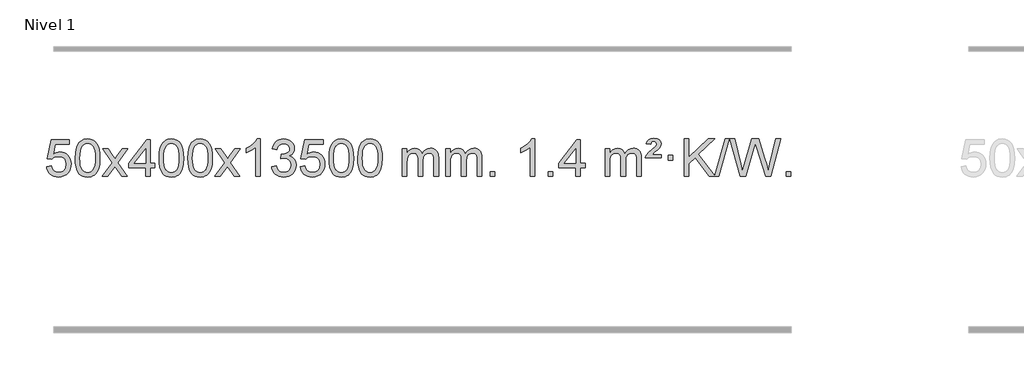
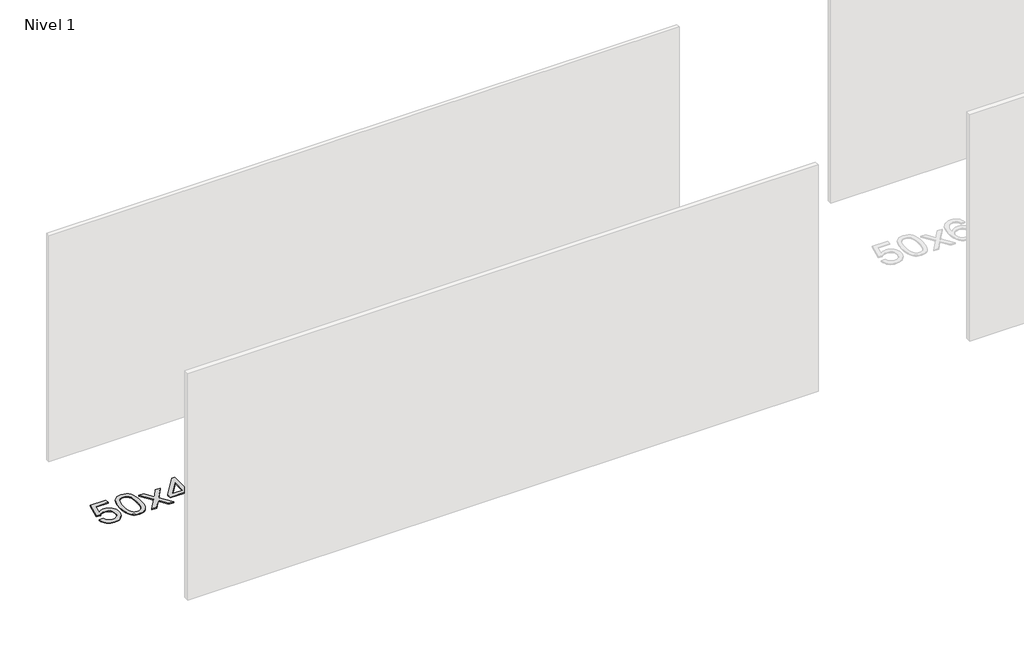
# One storey, part 5 of 12: 1 proxy.
"""IFC4 building model written with IfcOpenShell, lengths in millimetres."""

from ifc_helpers import new_model, si_unit, origin, origin_with_axes, place, context, project, spatial, polyline, outline, extrude, element, save

model = new_model("IFC4")

# Units and contexts
model_context = context("Model", 3, world=origin())
ifc_project = project(units=[si_unit("LENGTHUNIT", "METRE", prefix="MILLI")], contexts=[model_context])

# Site, building, storey
site = spatial("IfcSite", under=ifc_project)
building = spatial("IfcBuilding", under=site)
storey = spatial("IfcBuildingStorey", under=building, Name="Nivel 1", Elevation=0.0)

# Proxy
placement = place(None, origin())
element("IfcBuildingElementProxy", 1, Name="Texto de modelo 1", ObjectType="Texto de modelo 1", at=placement, inside=storey, context=model_context, shape_type="SweptSolid", body=[
    extrude(outline(polyline([(-11709.9934354, -284.8446235), (-11659.7652803, -278.5661041), (-11650.543705, -308.7201649), (-11634.454999, -330.3148381), (-11611.5727389, -343.3010725), (-11581.9705011, -347.6298173), (-11562.8406373, -346.1245668), (-11545.9671165, -341.6088153), (-11531.3499385, -334.0825628), (-11518.9891035, -323.5458094), (-11509.1605228, -310.519721), (-11502.1401081, -295.5254641), (-11496.5237763, -259.6324441), (-11501.7844888, -225.8363514), (-11508.3603795, -211.9181493), (-11517.5666264, -199.9865099), (-11529.4338865, -190.4154467), (-11543.9928164, -183.5789729), (-11581.1856861, -178.1097939), (-11605.5517369, -180.2925604), (-11625.2824746, -186.8408599), (-11641.0400868, -196.8717757), (-11653.4867609, -209.5023908), (-11703.714916, -203.2238715), (-11659.7652803, 3.9672682), (-11465.1311794, 3.9672682), (-11465.1311794, -46.2608869), (-11619.151108, -46.2608869), (-11640.6354166, -156.919791), (-11622.9096358, -144.2155994), (-11604.7546593, -135.1411769), (-11586.1704872, -129.6965234), (-11567.1571194, -127.8816388), (-11542.6960324, -130.1318504), (-11520.2276395, -136.882485), (-11499.7519408, -148.1335427), (-11481.2689362, -163.8850234), (-11465.9681109, -183.1743027), (-11455.03895, -205.038756), (-11448.4814534, -229.4783832), (-11446.2956212, -256.4931844), (-11448.2637899, -282.5147042), (-11454.1682959, -306.7213394), (-11464.0091393, -329.1130902), (-11477.78632, -349.6899565), (-11498.6574919, -370.7634634), (-11523.01128, -385.8159684), (-11550.8476843, -394.8474714), (-11582.1667048, -397.8579724), (-11608.087057, -395.9235262), (-11631.4996803, -390.1201877), (-11652.4045747, -380.447957), (-11670.8017402, -366.9068338), (-11686.1086968, -350.1712688), (-11697.7429649, -330.915712), (-11705.7045445, -309.1401636), (-11709.9934354, -284.8446235)])), origin_with_axes(), (0.0, 0.0, 1.0), 10.0),
    extrude(outline(polyline([(-11402.3459855, -193.9041943), (-11398.6549029, -129.5861588), (-11387.5816548, -78.2911459), (-11369.236606, -39.2343407), (-11357.378543, -24.0009605), (-11343.730121, -11.6309284), (-11328.2453547, -2.0598651), (-11310.8782588, 4.7766086), (-11270.4970785, 10.2457876), (-11239.5459399, 7.008426), (-11211.832163, -2.7036586), (-11188.6555973, -18.5103217), (-11171.3160926, -40.0314184), (-11158.2194935, -67.0830078), (-11147.7716449, -99.4811488), (-11140.9290398, -140.6226186), (-11138.6481714, -193.9041943), (-11142.3024659, -257.8543477), (-11153.2653493, -309.0267333), (-11171.5000336, -348.1203266), (-11183.3305054, -363.3996922), (-11196.9697304, -375.8341036), (-11212.4728908, -385.4695462), (-11229.8951689, -392.3520052), (-11270.4970785, -397.8579724), (-11298.1618045, -395.4667394), (-11322.6872709, -388.2930405), (-11344.0734775, -376.3368757), (-11362.3204245, -359.5982449), (-11379.8316074, -329.3399508), (-11392.3395953, -291.6381776), (-11399.844388, -246.4929255), (-11402.3459855, -193.9041943)]), holes=[polyline([(-11352.1178305, -193.8060924), (-11350.6463025, -237.4706195), (-11346.2317185, -272.8148822), (-11338.8740786, -299.8388804), (-11328.5733828, -318.5426142), (-11316.1144459, -331.2682656), (-11302.2820829, -340.3580165), (-11287.0762937, -345.8118671), (-11270.4970785, -347.6298173), (-11253.9178632, -345.8057357), (-11238.7120741, -340.3334911), (-11224.8797111, -331.2130833), (-11212.4207742, -318.4445124), (-11202.1200783, -299.7101217), (-11194.7624384, -272.6922549), (-11190.3478545, -237.3909118), (-11188.8763265, -193.8060924), (-11190.2988035, -151.2973278), (-11194.5662347, -116.5753989), (-11201.6786199, -89.6403055), (-11211.6359592, -70.4920476), (-11223.8864297, -57.1440625), (-11237.8782082, -47.6097875), (-11253.6112949, -41.8892225), (-11271.0856897, -39.9823675), (-11287.5790658, -41.6623619), (-11302.5273375, -46.7023452), (-11315.9305049, -55.1023175), (-11327.7885679, -66.8622786), (-11338.4326203, -87.708925), (-11346.0355148, -115.8151094), (-11350.5972516, -151.1808319), (-11352.1178305, -193.8060924)])]), origin_with_axes(), (0.0, 0.0, 1.0), 10.0),
    extrude(outline(polyline([(-11113.5340939, -391.579453), (-11006.2106531, -243.2494325), (-11107.2555745, -96.4890419), (-11046.8248254, -96.4890419), (-10998.0681983, -167.122385), (-10975.3085655, -200.4770192), (-10955.5900906, -173.2047007), (-10900.0644348, -96.4890419), (-10839.6336857, -96.4890419), (-10945.7799041, -243.2494325), (-10843.5577603, -391.579453), (-10903.9885094, -391.579453), (-10965.498379, -302.4048574), (-10976.7800935, -286.1199477), (-11053.1033448, -391.579453), (-11113.5340939, -391.579453)])), origin_with_axes(), (0.0, 0.0, 1.0), 10.0),
    extrude(outline(polyline([(-10648.9236594, -391.579453), (-10648.9236594, -297.4016622), (-10831.0007216, -297.4016622), (-10831.0007216, -247.1735072), (-10636.3666207, 3.9672682), (-10598.6955043, 3.9672682), (-10598.6955043, -247.1735072), (-10548.4673493, -247.1735072), (-10548.4673493, -297.4016622), (-10598.6955043, -297.4016622), (-10598.6955043, -391.579453), (-10648.9236594, -391.579453)]), holes=[polyline([(-10648.9236594, -247.1735072), (-10648.9236594, -91.9763561), (-10769.1965464, -247.1735072), (-10648.9236594, -247.1735072)])]), origin_with_axes(), (0.0, 0.0, 1.0), 10.0),
    extrude(outline(polyline([(-10504.5177136, -193.9041943), (-10500.8266309, -129.5861588), (-10489.7533828, -78.2911459), (-10471.408334, -39.2343407), (-10459.550271, -24.0009605), (-10445.901849, -11.6309284), (-10430.4170827, -2.0598651), (-10413.0499869, 4.7766086), (-10372.6688065, 10.2457876), (-10341.717668, 7.008426), (-10314.003891, -2.7036586), (-10290.8273253, -18.5103217), (-10273.4878206, -40.0314184), (-10260.3912216, -67.0830078), (-10249.9433729, -99.4811488), (-10243.1007678, -140.6226186), (-10240.8198994, -193.9041943), (-10244.4741939, -257.8543477), (-10255.4370774, -309.0267333), (-10273.6717616, -348.1203266), (-10285.5022334, -363.3996922), (-10299.1414584, -375.8341036), (-10314.6446188, -385.4695462), (-10332.066897, -392.3520052), (-10372.6688065, -397.8579724), (-10400.3335326, -395.4667394), (-10424.8589989, -388.2930405), (-10446.2452055, -376.3368757), (-10464.4921525, -359.5982449), (-10482.0033355, -329.3399508), (-10494.5113233, -291.6381776), (-10502.016116, -246.4929255), (-10504.5177136, -193.9041943)]), holes=[polyline([(-10454.2895585, -193.8060924), (-10452.8180305, -237.4706195), (-10448.4034466, -272.8148822), (-10441.0458067, -299.8388804), (-10430.7451108, -318.5426142), (-10418.2861739, -331.2682656), (-10404.4538109, -340.3580165), (-10389.2480218, -345.8118671), (-10372.6688065, -347.6298173), (-10356.0895913, -345.8057357), (-10340.8838021, -340.3334911), (-10327.0514391, -331.2130833), (-10314.5925022, -318.4445124), (-10304.2918063, -299.7101217), (-10296.9341664, -272.6922549), (-10292.5195825, -237.3909118), (-10291.0480545, -193.8060924), (-10292.4705316, -151.2973278), (-10296.7379627, -116.5753989), (-10303.8503479, -89.6403055), (-10313.8076873, -70.4920476), (-10326.0581577, -57.1440625), (-10340.0499363, -47.6097875), (-10355.7830229, -41.8892225), (-10373.2574177, -39.9823675), (-10389.7507938, -41.6623619), (-10404.6990656, -46.7023452), (-10418.1022329, -55.1023175), (-10429.9602959, -66.8622786), (-10440.6043483, -87.708925), (-10448.2072429, -115.8151094), (-10452.7689796, -151.1808319), (-10454.2895585, -193.8060924)])]), origin_with_axes(), (0.0, 0.0, 1.0), 10.0),
    extrude(outline(polyline([(-10196.8702638, -193.9041943), (-10193.1791811, -129.5861588), (-10182.105933, -78.2911459), (-10163.7608842, -39.2343407), (-10151.9028212, -24.0009605), (-10138.2543992, -11.6309284), (-10122.7696329, -2.0598651), (-10105.402537, 4.7766086), (-10065.0213567, 10.2457876), (-10034.0702182, 7.008426), (-10006.3564412, -2.7036586), (-9983.1798755, -18.5103217), (-9965.8403708, -40.0314184), (-9952.7437718, -67.0830078), (-9942.2959231, -99.4811488), (-9935.453318, -140.6226186), (-9933.1724496, -193.9041943), (-9936.8267441, -257.8543477), (-9947.7896275, -309.0267333), (-9966.0243118, -348.1203266), (-9977.8547836, -363.3996922), (-9991.4940086, -375.8341036), (-10006.997169, -385.4695462), (-10024.4194471, -392.3520052), (-10065.0213567, -397.8579724), (-10092.6860827, -395.4667394), (-10117.2115491, -388.2930405), (-10138.5977557, -376.3368757), (-10156.8447027, -359.5982449), (-10174.3558856, -329.3399508), (-10186.8638735, -291.6381776), (-10194.3686662, -246.4929255), (-10196.8702638, -193.9041943)]), holes=[polyline([(-10146.6421087, -193.8060924), (-10145.1705807, -237.4706195), (-10140.7559968, -272.8148822), (-10133.3983568, -299.8388804), (-10123.097661, -318.5426142), (-10110.6387241, -331.2682656), (-10096.8063611, -340.3580165), (-10081.6005719, -345.8118671), (-10065.0213567, -347.6298173), (-10048.4421414, -345.8057357), (-10033.2363523, -340.3334911), (-10019.4039893, -331.2130833), (-10006.9450524, -318.4445124), (-9996.6443565, -299.7101217), (-9989.2867166, -272.6922549), (-9984.8721327, -237.3909118), (-9983.4006047, -193.8060924), (-9984.8230817, -151.2973278), (-9989.0905129, -116.5753989), (-9996.2028981, -89.6403055), (-10006.1602375, -70.4920476), (-10018.4107079, -57.1440625), (-10032.4024864, -47.6097875), (-10048.1355731, -41.8892225), (-10065.6099679, -39.9823675), (-10082.103344, -41.6623619), (-10097.0516157, -46.7023452), (-10110.4547831, -55.1023175), (-10122.3128461, -66.8622786), (-10132.9568985, -87.708925), (-10140.559793, -115.8151094), (-10145.1215298, -151.1808319), (-10146.6421087, -193.8060924)])]), origin_with_axes(), (0.0, 0.0, 1.0), 10.0),
    extrude(outline(polyline([(-9908.0583721, -391.579453), (-9800.7349313, -243.2494325), (-9901.7798527, -96.4890419), (-9841.3491036, -96.4890419), (-9792.5924765, -167.122385), (-9769.8328437, -200.4770192), (-9750.1143688, -173.2047007), (-9694.588713, -96.4890419), (-9634.1579639, -96.4890419), (-9740.3041823, -243.2494325), (-9638.0820385, -391.579453), (-9698.5127876, -391.579453), (-9760.0226572, -302.4048574), (-9771.3043717, -286.1199477), (-9847.627623, -391.579453), (-9908.0583721, -391.579453)])), origin_with_axes(), (0.0, 0.0, 1.0), 10.0),
    extrude(outline(polyline([(-9418.3338601, -391.579453), (-9468.5620152, -391.579453), (-9468.5620152, -78.4382987), (-9489.5312889, -95.3976587), (-9516.1414199, -112.3324932), (-9569.0183253, -137.6918254), (-9569.0183253, -90.2105225), (-9529.5691127, -68.7507395), (-9495.3928753, -43.219729), (-9468.4516506, -16.0700378), (-9450.7074757, 10.2457876), (-9418.3338601, 10.2457876), (-9418.3338601, -391.579453)])), origin_with_axes(), (0.0, 0.0, 1.0), 10.0),
    extrude(outline(polyline([(-9299.0419918, -284.8446235), (-9248.8138367, -278.5661041), (-9237.5689104, -310.1303793), (-9221.1000597, -331.4430095), (-9198.5979444, -343.5831154), (-9169.2532239, -347.6298173), (-9134.8194691, -342.0625364), (-9120.5456477, -335.1034354), (-9108.2338636, -325.3606939), (-9091.2377154, -300.4428201), (-9085.5723327, -270.2274455), (-9091.1886645, -241.5449126), (-9108.0376599, -218.2825078), (-9133.5441449, -202.8682522), (-9165.1329455, -197.730167), (-9200.3515152, -203.2238715), (-9194.7597089, -152.9957164), (-9186.7153559, -153.5843276), (-9156.6226087, -149.979084), (-9129.7181721, -139.1633534), (-9118.6449241, -130.9841103), (-9110.7354612, -120.8673555), (-9105.9897835, -108.8130888), (-9104.4078909, -94.8213102), (-9108.9941531, -73.1285352), (-9122.7529397, -55.5315131), (-9143.7467389, -43.8696539), (-9170.0380388, -39.9823675), (-9196.3783897, -43.9064421), (-9217.9117491, -55.6786659), (-9233.632573, -75.299039), (-9242.5353173, -102.7675613), (-9292.7634724, -96.4890419), (-9286.8099154, -72.5092672), (-9277.9746162, -51.3867093), (-9266.2575747, -33.1213683), (-9251.6587908, -17.713244), (-9234.6381172, -5.4811677), (-9215.6554062, 3.2560297), (-9194.710658, 8.4983481), (-9171.8038724, 10.2457876), (-9140.2273345, 6.7999596), (-9111.2259705, -3.5375245), (-9086.7740806, -19.8469596), (-9068.8459647, -41.2086408), (-9057.846293, -65.8199463), (-9054.1797358, -91.8782543), (-9057.662352, -116.1584659), (-9068.1102007, -138.1823347), (-9085.376129, -156.9443165), (-9109.3129841, -171.4388671), (-9077.8713363, -184.1430586), (-9054.5721433, -205.77452), (-9040.151169, -235.1560286), (-9035.3441776, -271.1103623), (-9037.7476733, -296.5923218), (-9044.9581605, -320.0631931), (-9056.975639, -341.5229762), (-9073.8001089, -360.971671), (-9094.2972674, -377.1094278), (-9117.3328116, -388.636397), (-9142.9067417, -395.5525785), (-9171.0190575, -397.8579724), (-9196.4274406, -395.8898037), (-9219.5794808, -389.9852977), (-9240.4751782, -380.1444543), (-9259.1145326, -366.3672736), (-9274.743386, -349.4630959), (-9286.6075804, -330.2412617), (-9294.7071156, -308.7017708), (-9299.0419918, -284.8446235)])), origin_with_axes(), (0.0, 0.0, 1.0), 10.0),
    extrude(outline(polyline([(-8991.394542, -284.8446235), (-8941.1663869, -278.5661041), (-8931.9448115, -308.7201649), (-8915.8561056, -330.3148381), (-8892.9738455, -343.3010725), (-8863.3716076, -347.6298173), (-8844.2417439, -346.1245668), (-8827.368223, -341.6088153), (-8812.7510451, -334.0825628), (-8800.3902101, -323.5458094), (-8790.5616294, -310.519721), (-8783.5412147, -295.5254641), (-8777.9248829, -259.6324441), (-8783.1855954, -225.8363514), (-8789.7614861, -211.9181493), (-8798.967733, -199.9865099), (-8810.834993, -190.4154467), (-8825.393923, -183.5789729), (-8862.5867927, -178.1097939), (-8886.9528435, -180.2925604), (-8906.6835812, -186.8408599), (-8922.4411933, -196.8717757), (-8934.8878675, -209.5023908), (-8985.1160226, -203.2238715), (-8941.1663869, 3.9672682), (-8746.532286, 3.9672682), (-8746.532286, -46.2608869), (-8900.5522146, -46.2608869), (-8922.0365231, -156.919791), (-8904.3107423, -144.2155994), (-8886.1557659, -135.1411769), (-8867.5715937, -129.6965234), (-8848.558226, -127.8816388), (-8824.097139, -130.1318504), (-8801.6287461, -136.882485), (-8781.1530474, -148.1335427), (-8762.6700428, -163.8850234), (-8747.3692175, -183.1743027), (-8736.4400566, -205.038756), (-8729.88256, -229.4783832), (-8727.6967278, -256.4931844), (-8729.6648965, -282.5147042), (-8735.5694025, -306.7213394), (-8745.4102459, -329.1130902), (-8759.1874266, -349.6899565), (-8780.0585985, -370.7634634), (-8804.4123865, -385.8159684), (-8832.2487908, -394.8474714), (-8863.5678114, -397.8579724), (-8889.4881636, -395.9235262), (-8912.9007869, -390.1201877), (-8933.8056813, -380.447957), (-8952.2028467, -366.9068338), (-8967.5098034, -350.1712688), (-8979.1440715, -330.915712), (-8987.105651, -309.1401636), (-8991.394542, -284.8446235)])), origin_with_axes(), (0.0, 0.0, 1.0), 10.0),
    extrude(outline(polyline([(-8683.7470921, -193.9041943), (-8680.0560094, -129.5861588), (-8668.9827614, -78.2911459), (-8650.6377126, -39.2343407), (-8638.7796496, -24.0009605), (-8625.1312276, -11.6309284), (-8609.6464612, -2.0598651), (-8592.2793654, 4.7766086), (-8551.8981851, 10.2457876), (-8520.9470465, 7.008426), (-8493.2332696, -2.7036586), (-8470.0567039, -18.5103217), (-8452.7171992, -40.0314184), (-8439.6206001, -67.0830078), (-8429.1727515, -99.4811488), (-8422.3301463, -140.6226186), (-8420.049278, -193.9041943), (-8423.7035725, -257.8543477), (-8434.6664559, -309.0267333), (-8452.9011401, -348.1203266), (-8464.731612, -363.3996922), (-8478.3708369, -375.8341036), (-8493.8739974, -385.4695462), (-8511.2962755, -392.3520052), (-8551.8981851, -397.8579724), (-8579.5629111, -395.4667394), (-8604.0883774, -388.2930405), (-8625.4745841, -376.3368757), (-8643.721531, -359.5982449), (-8661.232714, -329.3399508), (-8673.7407019, -291.6381776), (-8681.2454946, -246.4929255), (-8683.7470921, -193.9041943)]), holes=[polyline([(-8633.518937, -193.8060924), (-8632.0474091, -237.4706195), (-8627.6328251, -272.8148822), (-8620.2751852, -299.8388804), (-8609.9744894, -318.5426142), (-8597.5155525, -331.2682656), (-8583.6831894, -340.3580165), (-8568.4774003, -345.8118671), (-8551.8981851, -347.6298173), (-8535.3189698, -345.8057357), (-8520.1131807, -340.3334911), (-8506.2808176, -331.2130833), (-8493.8218807, -318.4445124), (-8483.5211849, -299.7101217), (-8476.163545, -272.6922549), (-8471.748961, -237.3909118), (-8470.2774331, -193.8060924), (-8471.6999101, -151.2973278), (-8475.9673412, -116.5753989), (-8483.0797265, -89.6403055), (-8493.0370658, -70.4920476), (-8505.2875363, -57.1440625), (-8519.2793148, -47.6097875), (-8535.0124015, -41.8892225), (-8552.4867962, -39.9823675), (-8568.9801724, -41.6623619), (-8583.9284441, -46.7023452), (-8597.3316115, -55.1023175), (-8609.1896744, -66.8622786), (-8619.8337268, -87.708925), (-8627.4366214, -115.8151094), (-8631.9983581, -151.1808319), (-8633.518937, -193.8060924)])]), origin_with_axes(), (0.0, 0.0, 1.0), 10.0),
    extrude(outline(polyline([(-8376.0996423, -193.9041943), (-8372.4085596, -129.5861588), (-8361.3353115, -78.2911459), (-8342.9902627, -39.2343407), (-8331.1321997, -24.0009605), (-8317.4837777, -11.6309284), (-8301.9990114, -2.0598651), (-8284.6319156, 4.7766086), (-8244.2507352, 10.2457876), (-8213.2995967, 7.008426), (-8185.5858197, -2.7036586), (-8162.409254, -18.5103217), (-8145.0697493, -40.0314184), (-8131.9731503, -67.0830078), (-8121.5253016, -99.4811488), (-8114.6826965, -140.6226186), (-8112.4018281, -193.9041943), (-8116.0561226, -257.8543477), (-8127.0190061, -309.0267333), (-8145.2536903, -348.1203266), (-8157.0841621, -363.3996922), (-8170.7233871, -375.8341036), (-8186.2265475, -385.4695462), (-8203.6488257, -392.3520052), (-8244.2507352, -397.8579724), (-8271.9154613, -395.4667394), (-8296.4409276, -388.2930405), (-8317.8271343, -376.3368757), (-8336.0740812, -359.5982449), (-8353.5852642, -329.3399508), (-8366.093252, -291.6381776), (-8373.5980447, -246.4929255), (-8376.0996423, -193.9041943)]), holes=[polyline([(-8325.8714872, -193.8060924), (-8324.3999592, -237.4706195), (-8319.9853753, -272.8148822), (-8312.6277354, -299.8388804), (-8302.3270395, -318.5426142), (-8289.8681026, -331.2682656), (-8276.0357396, -340.3580165), (-8260.8299505, -345.8118671), (-8244.2507352, -347.6298173), (-8227.67152, -345.8057357), (-8212.4657308, -340.3334911), (-8198.6333678, -331.2130833), (-8186.1744309, -318.4445124), (-8175.873735, -299.7101217), (-8168.5160951, -272.6922549), (-8164.1015112, -237.3909118), (-8162.6299832, -193.8060924), (-8164.0524603, -151.2973278), (-8168.3198914, -116.5753989), (-8175.4322767, -89.6403055), (-8185.389616, -70.4920476), (-8197.6400864, -57.1440625), (-8211.631865, -47.6097875), (-8227.3649516, -41.8892225), (-8244.8393464, -39.9823675), (-8261.3327225, -41.6623619), (-8276.2809943, -46.7023452), (-8289.6841616, -55.1023175), (-8301.5422246, -66.8622786), (-8312.186277, -87.708925), (-8319.7891716, -115.8151094), (-8324.3509083, -151.1808319), (-8325.8714872, -193.8060924)])]), origin_with_axes(), (0.0, 0.0, 1.0), 10.0),
    extrude(outline(polyline([(-7898.9321691, -391.579453), (-7898.9321691, -96.4890419), (-7848.704014, -96.4890419), (-7848.704014, -145.0494653), (-7833.5963267, -122.7435537), (-7814.1721574, -105.2691589), (-7791.0936936, -93.9751816), (-7765.0231228, -90.2105225), (-7737.0886167, -94.048758), (-7714.6968659, -105.5634645), (-7697.9704978, -123.9943524), (-7687.0321399, -148.5811324), (-7668.7238792, -123.0439906), (-7647.8404446, -104.803175), (-7624.3818361, -93.8586857), (-7598.3480536, -90.2105225), (-7578.2402368, -91.7280358), (-7560.5910981, -96.2805755), (-7545.4006374, -103.8681416), (-7532.6688547, -114.4907342), (-7522.6042164, -128.2709806), (-7515.4151891, -145.3315082), (-7511.1017727, -165.6723168), (-7509.6639672, -189.2934066), (-7509.6639672, -391.579453), (-7559.8921223, -391.579453), (-7559.8921223, -210.875817), (-7561.057082, -185.8230531), (-7564.5519609, -168.9372695), (-7571.1002604, -157.3735121), (-7581.4254818, -148.2868268), (-7594.7060218, -142.4007149), (-7610.1202774, -140.4386776), (-7637.3312823, -145.4663982), (-7659.5145666, -160.54956), (-7668.1199396, -172.1194488), (-7674.2666346, -186.7182326), (-7679.1839906, -225.0024856), (-7679.1839906, -391.579453), (-7729.4121457, -391.579453), (-7729.4121457, -205.2840106), (-7732.3184135, -176.8835206), (-7741.0372167, -156.6254854), (-7756.3778959, -144.4853796), (-7779.1497914, -140.4386776), (-7798.5003844, -143.1364789), (-7816.3303984, -151.2298828), (-7831.0456782, -164.5226856), (-7841.0520685, -182.8186835), (-7846.7910276, -208.2025411), (-7848.704014, -242.7589232), (-7848.704014, -391.579453), (-7898.9321691, -391.579453)])), origin_with_axes(), (0.0, 0.0, 1.0), 10.0),
    extrude(outline(polyline([(-7434.3217346, -391.579453), (-7434.3217346, -96.4890419), (-7384.0935796, -96.4890419), (-7384.0935796, -145.0494653), (-7368.9858923, -122.7435537), (-7349.5617229, -105.2691589), (-7326.4832591, -93.9751816), (-7300.4126884, -90.2105225), (-7272.4781822, -94.048758), (-7250.0864315, -105.5634645), (-7233.3600634, -123.9943524), (-7222.4217054, -148.5811324), (-7204.1134448, -123.0439906), (-7183.2300102, -104.803175), (-7159.7714016, -93.8586857), (-7133.7376191, -90.2105225), (-7113.6298024, -91.7280358), (-7095.9806637, -96.2805755), (-7080.790203, -103.8681416), (-7068.0584202, -114.4907342), (-7057.993782, -128.2709806), (-7050.8047547, -145.3315082), (-7046.4913383, -165.6723168), (-7045.0535328, -189.2934066), (-7045.0535328, -391.579453), (-7095.2816879, -391.579453), (-7095.2816879, -210.875817), (-7096.4466475, -185.8230531), (-7099.9415265, -168.9372695), (-7106.489826, -157.3735121), (-7116.8150473, -148.2868268), (-7130.0955874, -142.4007149), (-7145.509843, -140.4386776), (-7172.7208479, -145.4663982), (-7194.9041322, -160.54956), (-7203.5095052, -172.1194488), (-7209.6562002, -186.7182326), (-7214.5735562, -225.0024856), (-7214.5735562, -391.579453), (-7264.8017113, -391.579453), (-7264.8017113, -205.2840106), (-7267.707979, -176.8835206), (-7276.4267823, -156.6254854), (-7291.7674615, -144.4853796), (-7314.539357, -140.4386776), (-7333.88995, -143.1364789), (-7351.719964, -151.2298828), (-7366.4352438, -164.5226856), (-7376.4416341, -182.8186835), (-7382.1805932, -208.2025411), (-7384.0935796, -242.7589232), (-7384.0935796, -391.579453), (-7434.3217346, -391.579453)])), origin_with_axes(), (0.0, 0.0, 1.0), 10.0),
    extrude(outline(polyline([(-6957.1542614, -391.579453), (-6957.1542614, -341.3512979), (-6906.9261064, -341.3512979), (-6906.9261064, -391.579453), (-6957.1542614, -391.579453)])), origin_with_axes(), (0.0, 0.0, 1.0), 10.0),
    extrude(outline(polyline([(-6479.9867882, -391.579453), (-6530.2149433, -391.579453), (-6530.2149433, -78.4382987), (-6551.184217, -95.3976587), (-6577.794348, -112.3324932), (-6630.6712534, -137.6918254), (-6630.6712534, -90.2105225), (-6591.2220408, -68.7507395), (-6557.0458035, -43.219729), (-6530.1045787, -16.0700378), (-6512.3604038, 10.2457876), (-6479.9867882, 10.2457876), (-6479.9867882, -391.579453)])), origin_with_axes(), (0.0, 0.0, 1.0), 10.0),
    extrude(outline(polyline([(-6335.5808424, -391.579453), (-6335.5808424, -341.3512979), (-6285.3526873, -341.3512979), (-6285.3526873, -391.579453), (-6335.5808424, -391.579453)])), origin_with_axes(), (0.0, 0.0, 1.0), 10.0),
    extrude(outline(polyline([(-6040.4904313, -391.579453), (-6040.4904313, -297.4016622), (-6222.5674935, -297.4016622), (-6222.5674935, -247.1735072), (-6027.9333925, 3.9672682), (-5990.2622762, 3.9672682), (-5990.2622762, -247.1735072), (-5940.0341212, -247.1735072), (-5940.0341212, -297.4016622), (-5990.2622762, -297.4016622), (-5990.2622762, -391.579453), (-6040.4904313, -391.579453)]), holes=[polyline([(-6040.4904313, -247.1735072), (-6040.4904313, -91.9763561), (-6160.7633183, -247.1735072), (-6040.4904313, -247.1735072)])]), origin_with_axes(), (0.0, 0.0, 1.0), 10.0),
    extrude(outline(polyline([(-5726.5644621, -391.579453), (-5726.5644621, -96.4890419), (-5676.336307, -96.4890419), (-5676.336307, -145.0494653), (-5661.2286197, -122.7435537), (-5641.8044504, -105.2691589), (-5618.7259866, -93.9751816), (-5592.6554158, -90.2105225), (-5564.7209097, -94.048758), (-5542.3291589, -105.5634645), (-5525.6027909, -123.9943524), (-5514.6644329, -148.5811324), (-5496.3561722, -123.0439906), (-5475.4727377, -104.803175), (-5452.0141291, -93.8586857), (-5425.9803466, -90.2105225), (-5405.8725298, -91.7280358), (-5388.2233911, -96.2805755), (-5373.0329304, -103.8681416), (-5360.3011477, -114.4907342), (-5350.2365094, -128.2709806), (-5343.0474821, -145.3315082), (-5338.7340657, -165.6723168), (-5337.2962603, -189.2934066), (-5337.2962603, -391.579453), (-5387.5244153, -391.579453), (-5387.5244153, -210.875817), (-5388.689375, -185.8230531), (-5392.1842539, -168.9372695), (-5398.7325535, -157.3735121), (-5409.0577748, -148.2868268), (-5422.3383148, -142.4007149), (-5437.7525704, -140.4386776), (-5464.9635753, -145.4663982), (-5487.1468596, -160.54956), (-5495.7522326, -172.1194488), (-5501.8989276, -186.7182326), (-5506.8162836, -225.0024856), (-5506.8162836, -391.579453), (-5557.0444387, -391.579453), (-5557.0444387, -205.2840106), (-5559.9507065, -176.8835206), (-5568.6695098, -156.6254854), (-5584.010189, -144.4853796), (-5606.7820845, -140.4386776), (-5626.1326774, -143.1364789), (-5643.9626914, -151.2298828), (-5658.6779713, -164.5226856), (-5668.6843615, -182.8186835), (-5674.4233206, -208.2025411), (-5676.336307, -242.7589232), (-5676.336307, -391.579453), (-5726.5644621, -391.579453)])), origin_with_axes(), (0.0, 0.0, 1.0), 10.0),
    extrude(outline(polyline([(-5293.3466246, -190.6668327), (-5289.5206518, -174.8479069), (-5281.1819933, -158.9799302), (-5259.6731593, -133.8413272), (-5227.7164766, -106.1030247), (-5183.5706372, -68.726214), (-5176.4337265, -57.1992448), (-5174.0547563, -45.3779701), (-5175.9432172, -33.2869152), (-5181.6085999, -23.5012541), (-5190.977328, -17.026531), (-5203.9758252, -14.8682899), (-5216.4102366, -16.4869707), (-5225.26393, -21.343013), (-5231.6896022, -30.8098431), (-5236.8399501, -46.2608869), (-5287.0681052, -39.9823675), (-5276.2278491, -14.7701881), (-5259.5995829, 2.7900458), (-5235.834406, 13.0907417), (-5203.5834178, 16.524307), (-5167.8007624, 12.3917659), (-5143.0545668, -0.0058573), (-5128.6335926, -18.3386434), (-5123.8266012, -40.2766731), (-5127.9223541, -63.1834586), (-5140.2096127, -84.8149199), (-5160.737428, -104.6314968), (-5197.2067965, -132.6886303), (-5222.8113834, -159.2742358), (-5123.8266012, -159.2742358), (-5123.8266012, -190.6668327), (-5293.3466246, -190.6668327)])), origin_with_axes(), (0.0, 0.0, 1.0), 10.0),
    extrude(outline(polyline([(-5048.4843686, -215.7809102), (-5048.4843686, -165.5527552), (-4998.2562135, -165.5527552), (-4998.2562135, -215.7809102), (-5048.4843686, -215.7809102)])), origin_with_axes(), (0.0, 0.0, 1.0), 10.0),
    extrude(outline(polyline([(-4607.6145856, -391.579453), (-4761.045903, -188.9009991), (-4828.7361901, -253.4520265), (-4828.7361901, -391.579453), (-4878.9643452, -391.579453), (-4878.9643452, 10.2457876), (-4828.7361901, 10.2457876), (-4828.7361901, -186.4484525), (-4622.7222728, 10.2457876), (-4552.4813372, 10.2457876), (-4725.4349259, -154.9577537), (-4550.781316, -385.5349332), (-4439.4679883, 10.2457876), (-4394.1449265, 10.2457876), (-4507.1582754, -391.579453), (-4546.2028178, -391.579453), (-4552.4813372, -391.579453), (-4607.6145856, -391.579453)])), origin_with_axes(), (0.0, 0.0, 1.0), 10.0),
    extrude(outline(polyline([(-4279.6600496, -391.579453), (-4389.2398332, 10.2457876), (-4337.4420483, 10.2457876), (-4273.8720395, -253.844434), (-4254.2516665, -335.3670841), (-4233.2578673, -263.2622131), (-4153.5991526, 10.2457876), (-4078.943633, 10.2457876), (-4021.0635325, -188.0180823), (-3996.268286, -261.5944814), (-3977.9968136, -335.3670841), (-3958.9650517, -256.1988788), (-3894.8064317, 10.2457876), (-3843.0086468, 10.2457876), (-3952.6865323, -391.579453), (-4006.3482526, -391.579453), (-4102.6842845, -81.5775584), (-4116.12424, -38.3146358), (-4131.2319273, -90.4067263), (-4219.0330968, -391.579453), (-4279.6600496, -391.579453)])), origin_with_axes(), (0.0, 0.0, 1.0), 10.0),
    extrude(outline(polyline([(-3786.5019723, -391.579453), (-3786.5019723, -341.3512979), (-3736.2738173, -341.3512979), (-3736.2738173, -391.579453), (-3786.5019723, -391.579453)])), origin_with_axes(), (0.0, 0.0, 1.0), 10.0),
])

save(model, "model.ifc")
